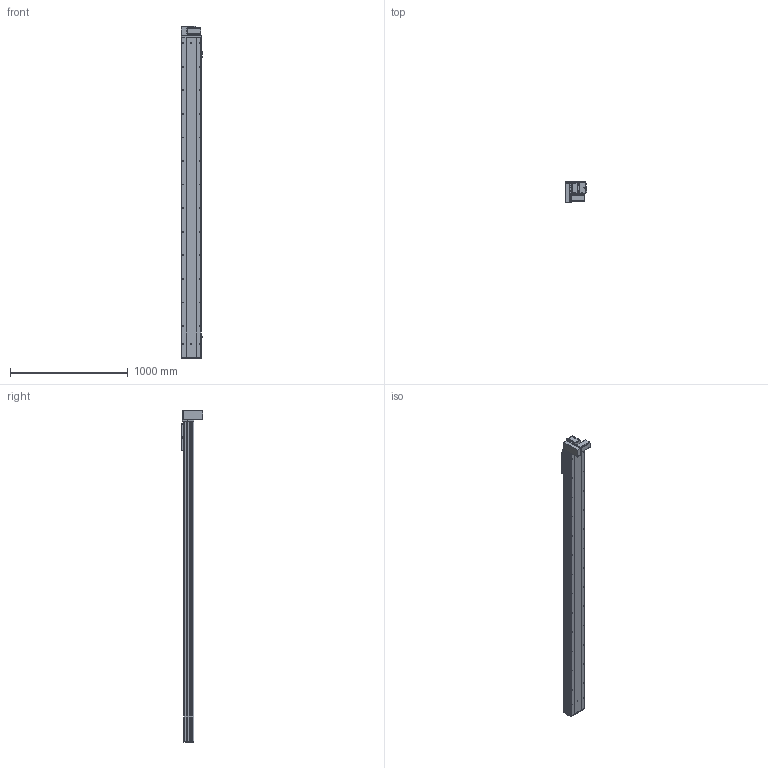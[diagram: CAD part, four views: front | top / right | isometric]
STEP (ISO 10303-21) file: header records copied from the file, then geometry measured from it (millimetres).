
FILE_DESCRIPTION (( 'STEP AP203' ), '1' );
FILE_NAME ('Y170CB-D105-S2400-BM-P400W.STEP', '2020-02-20T07:41:21', ( '微软用户' ), ( '微软中国' ), 'SwSTEP 2.0', 'SolidWorks 2017', '' );
FILE_SCHEMA (( 'CONFIG_CONTROL_DESIGN' ));
Length unit declared in the file: millimetre
Products named in the file (18): 17B-耜蚾蟀諉啣----; 70C--詩湍揤踡え-; 00B-俋欶BM--163; 70CB--耜裔; 70B喘謫眊----; 70C-雄赽釱-奻-; B-源倛裔啣; Y170CB-D105-S2400-BM-P400W; 0C--雄赽釱俋欶-170; 0B-萇儂楊擘啣; 70CB-詩湍--; san松下电机400不带刹车----; Y100-135俋离換覜ん--; 70CB-掛极-; Y170CB-陔俋离換覜結え---; --70CB --喘謫眊楊擘啣-; Y1埴倛裔; 70CB-耜裔啣-
Assembly tree (21 placements, depth 2):
  Y170CB-D105-S2400-BM-P400W
    B-源倛裔啣
    0B-萇儂楊擘啣
    san松下电机400不带刹车----
    70CB-掛极-
    --70CB --喘謫眊楊擘啣-
    70CB-耜裔啣-  x2
    70C--詩湍揤踡え-  x2
    70CB--耜裔
    70C-雄赽釱-奻-
    0C--雄赽釱俋欶-170
    70CB-詩湍--
    Y100-135俋离換覜ん--  x3
    Y170CB-陔俋离換覜結え---
    Y1埴倛裔
    17B-耜蚾蟀諉啣----
    00B-俋欶BM--163
    70B喘謫眊----
Bounding box: 183.5 x 184 x 2816 mm (x, y, z)
Volume: 12051841.1 mm3; surface area: 4350841.5 mm2
Topology: 21 solids, 21 shells, 1063 faces, 2861 edges, 1898 vertices
Faces by surface type: cylinder 577, plane 462, cone 24
Entity records: 34080 total; most frequent: CARTESIAN_POINT 6276, DIRECTION 5546, ORIENTED_EDGE 5204, EDGE_CURVE 2602, AXIS2_PLACEMENT_3D 2048, VERTEX_POINT 1728, LINE 1450, VECTOR 1450
